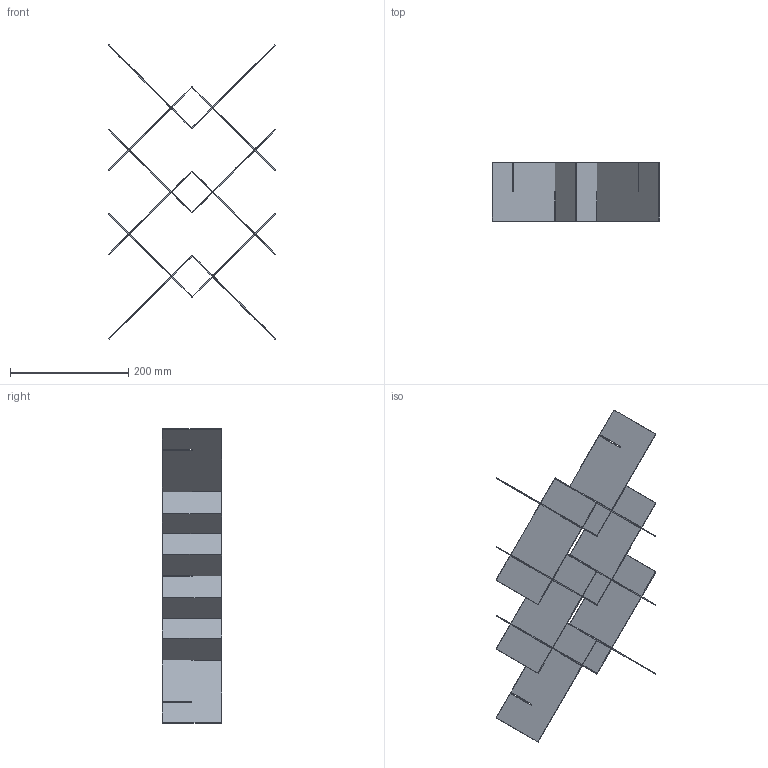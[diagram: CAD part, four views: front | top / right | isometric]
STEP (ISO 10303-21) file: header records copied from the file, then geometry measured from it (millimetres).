
FILE_DESCRIPTION(/* description */ (''),/* implementation_level */ '2;1');
FILE_NAME(/* name */ 'Struttura continua',/* time_stamp */ '2025-06-26T14:15:31+02:00',/* author */ (''),/* organization */ (''),/* preprocessor_version */ 'ST-DEVELOPER v16.5',/* originating_system */ 'Rhino 7.37',/* authorisation */ '');
FILE_SCHEMA (('AUTOMOTIVE_DESIGN'));
Length unit declared in the file: millimetre
Products named in the file (1): Document
Bounding box: 283.11 x 100.07 x 497.96 mm (x, y, z)
Volume: 354750 mm3; surface area: 485553.2 mm2
Topology: 6 solids, 6 shells, 228 faces, 648 edges, 432 vertices
Faces by surface type: plane 144, cylinder 84
Entity records: 6439 total; most frequent: CARTESIAN_POINT 2126, ORIENTED_EDGE 1296, EDGE_CURVE 648, B_SPLINE_CURVE_WITH_KNOTS 480, VERTEX_POINT 432, DIRECTION 232, AXIS2_PLACEMENT_3D 230, ADVANCED_FACE 228
